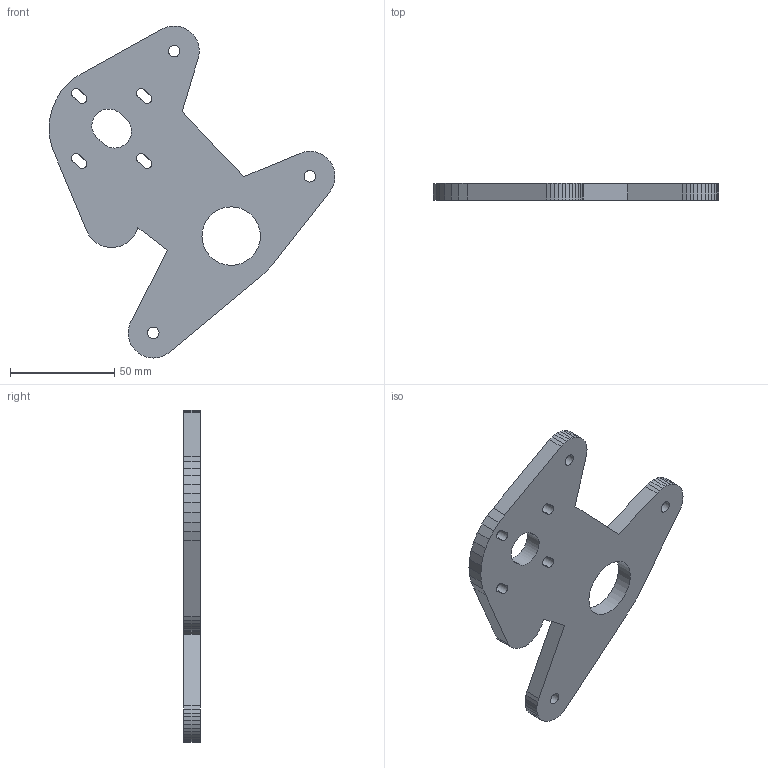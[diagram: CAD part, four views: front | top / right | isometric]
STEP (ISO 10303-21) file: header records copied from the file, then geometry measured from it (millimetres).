
FILE_DESCRIPTION(('Open CASCADE Model'),'2;1');
FILE_NAME('Open CASCADE Shape Model','2026-10-18T22:58:41',('Author'),( 'Open CASCADE'),'Open CASCADE STEP processor 7.9','Open CASCADE 7.9' ,'Unknown');
FILE_SCHEMA(('AUTOMOTIVE_DESIGN { 1 0 10303 214 1 1 1 1 }'));
Length unit declared in the file: millimetre
Products named in the file (1): Open CASCADE STEP translator 7.9 36
Bounding box: 136.95 x 8 x 159 mm (x, y, z)
Volume: 74340.7 mm3; surface area: 25156.6 mm2
Topology: 1 solids, 1 shells, 120 faces, 348 edges, 232 vertices
Faces by surface type: plane 89, cylinder 31
Full cylindrical faces by diameter (mm): 2.5 x2, 5.5 x3, 28 x1
Entity records: 8612 total; most frequent: CARTESIAN_POINT 1757, DIRECTION 1248, LINE 872, VECTOR 872, ORIENTED_EDGE 696, PCURVE 696, DEFINITIONAL_REPRESENTATION 696, EDGE_CURVE 348
